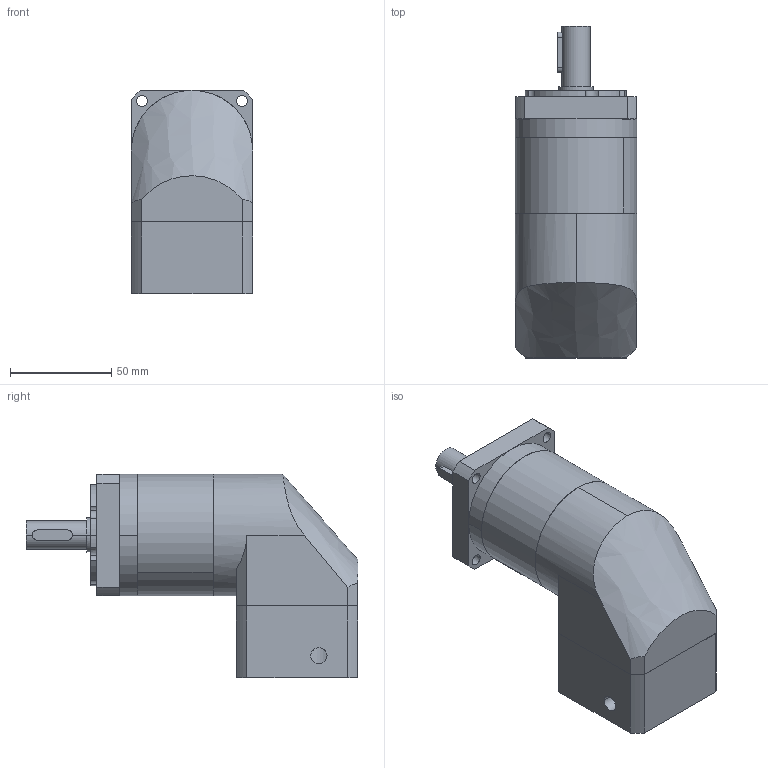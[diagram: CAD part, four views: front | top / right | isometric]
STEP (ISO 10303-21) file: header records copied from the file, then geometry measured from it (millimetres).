
FILE_DESCRIPTION (( 'STEP AP214' ), '1' );
FILE_NAME ('PFR-060-L2-S2-P2 14-50-70-M5.STEP', '2023-08-26T05:36:13', ( '微软用户' ), ( '微软中国' ), 'SwSTEP 2.0', 'SolidWorks 2018', '' );
FILE_SCHEMA (( 'AUTOMOTIVE_DESIGN' ));
Length unit declared in the file: millimetre
Products named in the file (9): PFR060 奻屳唳_D1-70 D2-5.5 D3-14 D4-17 D5-50 L1-30 L2-35 L3-3 A1-60 S1-3 S2-20 S3-5 S4-18 B-5 H-16 C-M5 梓袧; 双列角接触球轴承 5203_2; PFR060-眊极_揤翉; 囀鞠褒蹟佪-M5℅16; 邧埴瑩  5x5x20; PFR060-薊粣; PFR060-蟀諉啣; PFR-060-L2-S2-P2 14-50-70-M5; PFR060 內齿圈_二级内齿圈
Assembly tree (8 placements, depth 2):
  PFR-060-L2-S2-P2 14-50-70-M5
    PFR060 奻屳唳_D1-70 D2-5.5 D3-14 D4-17 D5-50 L1-30 L2-35 L3-3 A1-60 S1-3 S2-20 S3-5 S4-18 B-5 H-16 C-M5 梓袧
    PFR060-薊粣
    双列角接触球轴承 5203_2
    PFR060-蟀諉啣
    囀鞠褒蹟佪-M5℅16
    邧埴瑩  5x5x20
    PFR060-眊极_揤翉
    PFR060 內齿圈_二级内齿圈
Bounding box: 60 x 164 x 100.5 mm (x, y, z)
Volume: 462166.7 mm3; surface area: 96310.8 mm2
Topology: 8 solids, 8 shells, 515 faces, 1409 edges, 912 vertices
Faces by surface type: cylinder 190, plane 158, bspline 137, cone 30
Entity records: 20153 total; most frequent: CARTESIAN_POINT 7322, ORIENTED_EDGE 2782, DIRECTION 2458, EDGE_CURVE 1391, AXIS2_PLACEMENT_3D 1002, VERTEX_POINT 912, CIRCLE 613, EDGE_LOOP 603
